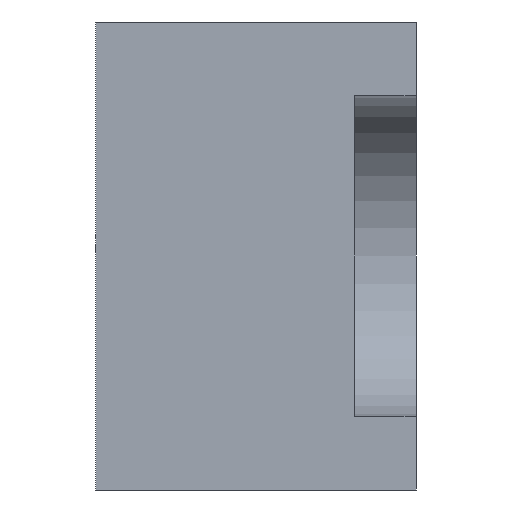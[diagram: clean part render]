
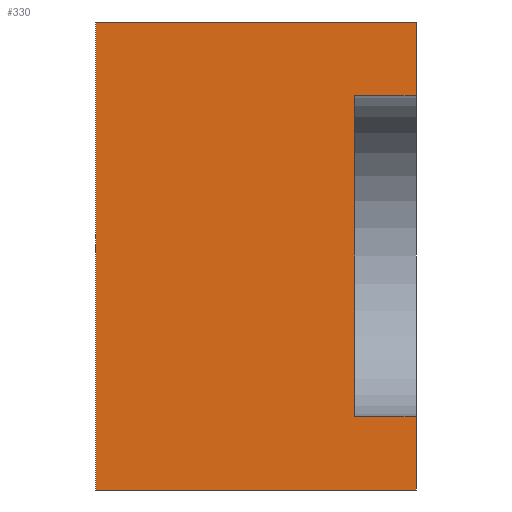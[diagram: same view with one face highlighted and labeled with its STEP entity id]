
A CAD part, left-side view. The second image highlights one B-rep face of the part: STEP entity #330.
In plain terms, the highlighted planar face has unit normal (-1, 0, 0).
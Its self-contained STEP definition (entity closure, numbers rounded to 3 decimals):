
#5 = EDGE_CURVE ( 'NONE', #380, #534, #251, .T. ) ;
#7 = DIRECTION ( 'NONE',  ( 0., -1., 0. ) ) ;
#19 = DIRECTION ( 'NONE',  ( 1., 0., 0. ) ) ;
#42 = CARTESIAN_POINT ( 'NONE',  ( -28.5, 0., 19. ) ) ;
#48 = LINE ( 'NONE', #396, #307 ) ;
#60 = DIRECTION ( 'NONE',  ( 0., 0., -1. ) ) ;
#61 = VECTOR ( 'NONE', #211, 1000. ) ;
#68 = LINE ( 'NONE', #145, #428 ) ;
#78 = ORIENTED_EDGE ( 'NONE', *, *, #310, .F. ) ;
#87 = LINE ( 'NONE', #359, #124 ) ;
#91 = DIRECTION ( 'NONE',  ( 0., -1., 0. ) ) ;
#102 = DIRECTION ( 'NONE',  ( 0., 0., 1. ) ) ;
#106 = VERTEX_POINT ( 'NONE', #394 ) ;
#110 = EDGE_LOOP ( 'NONE', ( #451, #296, #247, #449, #78, #377, #278, #202 ) ) ;
#113 = EDGE_CURVE ( 'NONE', #291, #543, #48, .T. ) ;
#124 = VECTOR ( 'NONE', #7, 1000. ) ;
#130 = CARTESIAN_POINT ( 'NONE',  ( -28.5, 0., 19. ) ) ;
#141 = AXIS2_PLACEMENT_3D ( 'NONE', #372, #19, #535 ) ;
#142 = EDGE_CURVE ( 'NONE', #106, #534, #87, .T. ) ;
#145 = CARTESIAN_POINT ( 'NONE',  ( -28.5, 5., 13. ) ) ;
#147 = CARTESIAN_POINT ( 'NONE',  ( -28.5, 26., -19. ) ) ;
#154 = CARTESIAN_POINT ( 'NONE',  ( -28.5, 26., -19. ) ) ;
#155 = EDGE_CURVE ( 'NONE', #509, #543, #218, .T. ) ;
#187 = DIRECTION ( 'NONE',  ( 0., -1., 0. ) ) ;
#188 = LINE ( 'NONE', #364, #410 ) ;
#194 = LINE ( 'NONE', #407, #521 ) ;
#198 = FACE_OUTER_BOUND ( 'NONE', #110, .T. ) ;
#202 = ORIENTED_EDGE ( 'NONE', *, *, #142, .F. ) ;
#211 = DIRECTION ( 'NONE',  ( 0., 0., 1. ) ) ;
#218 = LINE ( 'NONE', #130, #437 ) ;
#246 = EDGE_CURVE ( 'NONE', #422, #509, #68, .T. ) ;
#247 = ORIENTED_EDGE ( 'NONE', *, *, #155, .T. ) ;
#251 = LINE ( 'NONE', #42, #61 ) ;
#258 = DIRECTION ( 'NONE',  ( 0., 0., 1. ) ) ;
#274 = VERTEX_POINT ( 'NONE', #154 ) ;
#278 = ORIENTED_EDGE ( 'NONE', *, *, #5, .T. ) ;
#291 = VERTEX_POINT ( 'NONE', #365 ) ;
#296 = ORIENTED_EDGE ( 'NONE', *, *, #246, .T. ) ;
#307 = VECTOR ( 'NONE', #187, 1000. ) ;
#310 = EDGE_CURVE ( 'NONE', #274, #291, #194, .T. ) ;
#330 = ADVANCED_FACE ( 'NONE', ( #198 ), #488, .F. ) ;
#342 = VECTOR ( 'NONE', #91, 1000. ) ;
#347 = CARTESIAN_POINT ( 'NONE',  ( -28.5, 0., 13. ) ) ;
#358 = CARTESIAN_POINT ( 'NONE',  ( -28.5, 0., -13. ) ) ;
#359 = CARTESIAN_POINT ( 'NONE',  ( -28.5, 5., -13. ) ) ;
#364 = CARTESIAN_POINT ( 'NONE',  ( -28.5, 5., -13. ) ) ;
#365 = CARTESIAN_POINT ( 'NONE',  ( -28.5, 26., 19. ) ) ;
#372 = CARTESIAN_POINT ( 'NONE',  ( -28.5, 26., 19. ) ) ;
#377 = ORIENTED_EDGE ( 'NONE', *, *, #440, .T. ) ;
#380 = VERTEX_POINT ( 'NONE', #538 ) ;
#386 = CARTESIAN_POINT ( 'NONE',  ( -28.5, 5., 13. ) ) ;
#394 = CARTESIAN_POINT ( 'NONE',  ( -28.5, 5., -13. ) ) ;
#396 = CARTESIAN_POINT ( 'NONE',  ( -28.5, 26., 19. ) ) ;
#407 = CARTESIAN_POINT ( 'NONE',  ( -28.5, 26., 19. ) ) ;
#410 = VECTOR ( 'NONE', #60, 1000. ) ;
#422 = VERTEX_POINT ( 'NONE', #386 ) ;
#428 = VECTOR ( 'NONE', #452, 1000. ) ;
#437 = VECTOR ( 'NONE', #258, 1000. ) ;
#440 = EDGE_CURVE ( 'NONE', #274, #380, #525, .T. ) ;
#449 = ORIENTED_EDGE ( 'NONE', *, *, #113, .F. ) ;
#451 = ORIENTED_EDGE ( 'NONE', *, *, #528, .F. ) ;
#452 = DIRECTION ( 'NONE',  ( 0., -1., 0. ) ) ;
#488 = PLANE ( 'NONE',  #141 ) ;
#494 = CARTESIAN_POINT ( 'NONE',  ( -28.5, 0., 19. ) ) ;
#509 = VERTEX_POINT ( 'NONE', #347 ) ;
#521 = VECTOR ( 'NONE', #102, 1000. ) ;
#525 = LINE ( 'NONE', #147, #342 ) ;
#528 = EDGE_CURVE ( 'NONE', #422, #106, #188, .T. ) ;
#534 = VERTEX_POINT ( 'NONE', #358 ) ;
#535 = DIRECTION ( 'NONE',  ( 0., 0., -1. ) ) ;
#538 = CARTESIAN_POINT ( 'NONE',  ( -28.5, 0., -19. ) ) ;
#543 = VERTEX_POINT ( 'NONE', #494 ) ;
